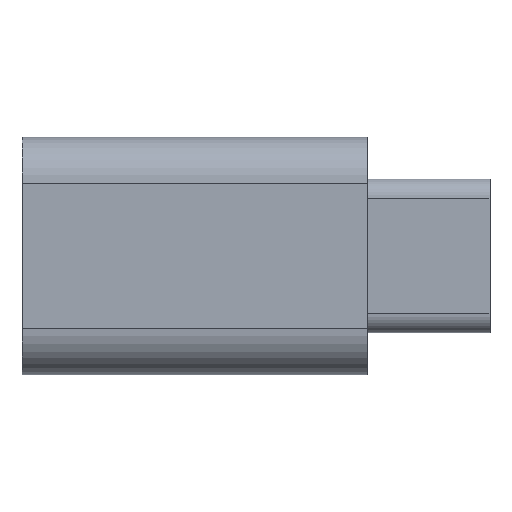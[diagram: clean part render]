
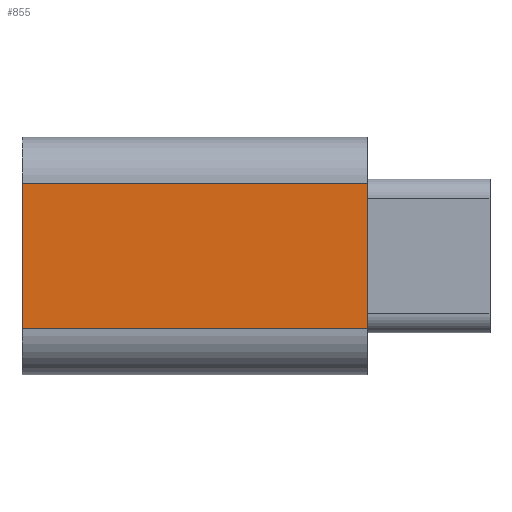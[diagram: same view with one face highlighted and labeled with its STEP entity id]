
A CAD part, top view. The second image highlights one B-rep face of the part: STEP entity #855.
In plain terms, the highlighted planar face has unit normal (0, 0, 1).
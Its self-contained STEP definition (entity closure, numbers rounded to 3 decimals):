
#72 = PLANE('',#73);
#73 = AXIS2_PLACEMENT_3D('',#74,#75,#76);
#74 = CARTESIAN_POINT('',(-30.327,-41.054,
    -15.446));
#75 = DIRECTION('',(1.,0.,0.));
#76 = DIRECTION('',(0.,1.,0.));
#100 = CYLINDRICAL_SURFACE('',#101,2.5);
#101 = AXIS2_PLACEMENT_3D('',#102,#103,#104);
#102 = CARTESIAN_POINT('',(-49.,-44.979,-14.446));
#103 = DIRECTION('',(-1.,0.,0.));
#104 = DIRECTION('',(0.,-1.,0.));
#126 = PLANE('',#127);
#127 = AXIS2_PLACEMENT_3D('',#128,#129,#130);
#128 = CARTESIAN_POINT('',(-49.,-41.054,-15.446));
#129 = DIRECTION('',(1.,0.,0.));
#130 = DIRECTION('',(0.,1.,0.));
#229 = VERTEX_POINT('',#230);
#230 = CARTESIAN_POINT('',(-30.327,-44.979,
    -11.946));
#256 = EDGE_CURVE('',#257,#229,#259,.T.);
#257 = VERTEX_POINT('',#258);
#258 = CARTESIAN_POINT('',(-49.,-44.979,-11.946));
#259 = SURFACE_CURVE('',#260,(#264,#271),.PCURVE_S1.);
#260 = LINE('',#261,#262);
#261 = CARTESIAN_POINT('',(-49.,-44.979,-11.946));
#262 = VECTOR('',#263,1.);
#263 = DIRECTION('',(1.,0.,0.));
#264 = PCURVE('',#100,#265);
#265 = DEFINITIONAL_REPRESENTATION('',(#266),#270);
#266 = LINE('',#267,#268);
#267 = CARTESIAN_POINT('',(1.571,0.));
#268 = VECTOR('',#269,1.);
#269 = DIRECTION('',(0.,-1.));
#270 = ( GEOMETRIC_REPRESENTATION_CONTEXT(2) 
PARAMETRIC_REPRESENTATION_CONTEXT() REPRESENTATION_CONTEXT('2D SPACE',''
  ) );
#271 = PCURVE('',#272,#277);
#272 = PLANE('',#273);
#273 = AXIS2_PLACEMENT_3D('',#274,#275,#276);
#274 = CARTESIAN_POINT('',(-49.,-44.979,-11.946));
#275 = DIRECTION('',(0.,0.,1.));
#276 = DIRECTION('',(0.,1.,0.));
#277 = DEFINITIONAL_REPRESENTATION('',(#278),#282);
#278 = LINE('',#279,#280);
#279 = CARTESIAN_POINT('',(0.,0.));
#280 = VECTOR('',#281,1.);
#281 = DIRECTION('',(0.,-1.));
#282 = ( GEOMETRIC_REPRESENTATION_CONTEXT(2) 
PARAMETRIC_REPRESENTATION_CONTEXT() REPRESENTATION_CONTEXT('2D SPACE',''
  ) );
#400 = VERTEX_POINT('',#401);
#401 = CARTESIAN_POINT('',(-49.,-37.129,-11.946));
#420 = CYLINDRICAL_SURFACE('',#421,2.5);
#421 = AXIS2_PLACEMENT_3D('',#422,#423,#424);
#422 = CARTESIAN_POINT('',(-49.,-37.129,-14.446));
#423 = DIRECTION('',(-1.,0.,0.));
#424 = DIRECTION('',(0.,-1.,0.));
#432 = EDGE_CURVE('',#257,#400,#433,.T.);
#433 = SURFACE_CURVE('',#434,(#438,#445),.PCURVE_S1.);
#434 = LINE('',#435,#436);
#435 = CARTESIAN_POINT('',(-49.,-41.054,-11.946));
#436 = VECTOR('',#437,1.);
#437 = DIRECTION('',(0.,1.,0.));
#438 = PCURVE('',#126,#439);
#439 = DEFINITIONAL_REPRESENTATION('',(#440),#444);
#440 = LINE('',#441,#442);
#441 = CARTESIAN_POINT('',(0.,3.5));
#442 = VECTOR('',#443,1.);
#443 = DIRECTION('',(1.,0.));
#444 = ( GEOMETRIC_REPRESENTATION_CONTEXT(2) 
PARAMETRIC_REPRESENTATION_CONTEXT() REPRESENTATION_CONTEXT('2D SPACE',''
  ) );
#445 = PCURVE('',#272,#446);
#446 = DEFINITIONAL_REPRESENTATION('',(#447),#451);
#447 = LINE('',#448,#449);
#448 = CARTESIAN_POINT('',(3.925,0.));
#449 = VECTOR('',#450,1.);
#450 = DIRECTION('',(1.,0.));
#451 = ( GEOMETRIC_REPRESENTATION_CONTEXT(2) 
PARAMETRIC_REPRESENTATION_CONTEXT() REPRESENTATION_CONTEXT('2D SPACE',''
  ) );
#534 = VERTEX_POINT('',#535);
#535 = CARTESIAN_POINT('',(-30.327,-37.129,
    -11.946));
#561 = EDGE_CURVE('',#229,#534,#562,.T.);
#562 = SURFACE_CURVE('',#563,(#567,#574),.PCURVE_S1.);
#563 = LINE('',#564,#565);
#564 = CARTESIAN_POINT('',(-30.327,-41.054,
    -11.946));
#565 = VECTOR('',#566,1.);
#566 = DIRECTION('',(0.,1.,0.));
#567 = PCURVE('',#72,#568);
#568 = DEFINITIONAL_REPRESENTATION('',(#569),#573);
#569 = LINE('',#570,#571);
#570 = CARTESIAN_POINT('',(0.,3.5));
#571 = VECTOR('',#572,1.);
#572 = DIRECTION('',(1.,0.));
#573 = ( GEOMETRIC_REPRESENTATION_CONTEXT(2) 
PARAMETRIC_REPRESENTATION_CONTEXT() REPRESENTATION_CONTEXT('2D SPACE',''
  ) );
#574 = PCURVE('',#272,#575);
#575 = DEFINITIONAL_REPRESENTATION('',(#576),#580);
#576 = LINE('',#577,#578);
#577 = CARTESIAN_POINT('',(3.925,-18.673));
#578 = VECTOR('',#579,1.);
#579 = DIRECTION('',(1.,0.));
#580 = ( GEOMETRIC_REPRESENTATION_CONTEXT(2) 
PARAMETRIC_REPRESENTATION_CONTEXT() REPRESENTATION_CONTEXT('2D SPACE',''
  ) );
#855 = ADVANCED_FACE('',(#856),#272,.T.);
#856 = FACE_BOUND('',#857,.T.);
#857 = EDGE_LOOP('',(#858,#859,#860,#881));
#858 = ORIENTED_EDGE('',*,*,#256,.T.);
#859 = ORIENTED_EDGE('',*,*,#561,.T.);
#860 = ORIENTED_EDGE('',*,*,#861,.F.);
#861 = EDGE_CURVE('',#400,#534,#862,.T.);
#862 = SURFACE_CURVE('',#863,(#867,#874),.PCURVE_S1.);
#863 = LINE('',#864,#865);
#864 = CARTESIAN_POINT('',(-49.,-37.129,-11.946));
#865 = VECTOR('',#866,1.);
#866 = DIRECTION('',(1.,0.,0.));
#867 = PCURVE('',#272,#868);
#868 = DEFINITIONAL_REPRESENTATION('',(#869),#873);
#869 = LINE('',#870,#871);
#870 = CARTESIAN_POINT('',(7.85,0.));
#871 = VECTOR('',#872,1.);
#872 = DIRECTION('',(0.,-1.));
#873 = ( GEOMETRIC_REPRESENTATION_CONTEXT(2) 
PARAMETRIC_REPRESENTATION_CONTEXT() REPRESENTATION_CONTEXT('2D SPACE',''
  ) );
#874 = PCURVE('',#420,#875);
#875 = DEFINITIONAL_REPRESENTATION('',(#876),#880);
#876 = LINE('',#877,#878);
#877 = CARTESIAN_POINT('',(1.571,0.));
#878 = VECTOR('',#879,1.);
#879 = DIRECTION('',(0.,-1.));
#880 = ( GEOMETRIC_REPRESENTATION_CONTEXT(2) 
PARAMETRIC_REPRESENTATION_CONTEXT() REPRESENTATION_CONTEXT('2D SPACE',''
  ) );
#881 = ORIENTED_EDGE('',*,*,#432,.F.);
